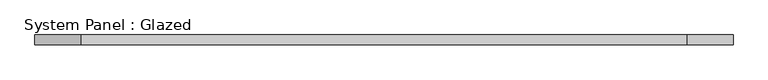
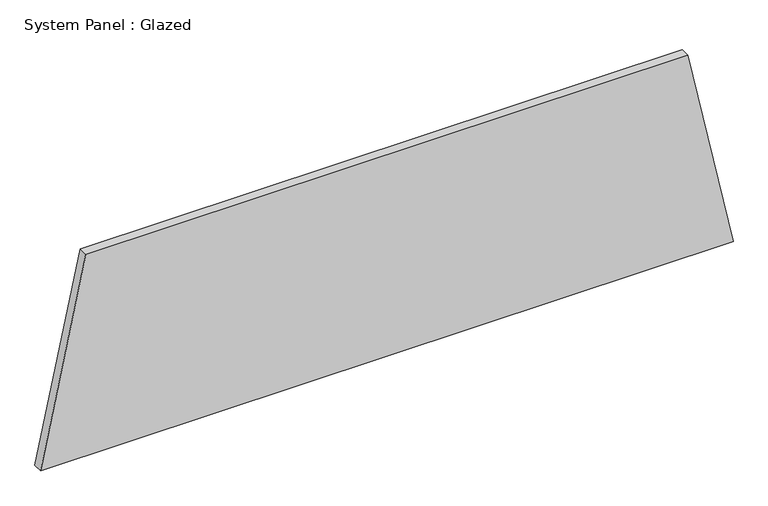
"""IFC4 building model written with IfcOpenShell, lengths in millimetres: plate geometry, System Panel : Glazed."""

from ifc_helpers import new_model, si_unit, frame, origin, place, context, project, spatial, polyline, outline, extrude, source, transform, mapped, element, save


def system_panel_glazed_6854fac0(model_context):
    return source(origin(), model_context, "Body", "SweptSolid", [
        extrude(outline(polyline([(0.0, -908.2247887), (0.0, 908.2247887), (558.1731024, 789.5553138), (558.1731024, -789.5553138), (0.0, -908.2247887)])), frame((0.0, 19.05, 0.0), z_axis=(0.0, 1.0, 0.0), x_axis=(0.0, 0.0, 1.0)), (0.0, 0.0, 1.0), 25.4),
    ])


if __name__ == "__main__":
    model = new_model("IFC4")
    model_context = context("Model", 3, world=origin())
    ifc_project = project(units=[si_unit("LENGTHUNIT", "METRE", prefix="MILLI")], contexts=[model_context])
    site = spatial("IfcSite", under=ifc_project)
    building = spatial("IfcBuilding", under=site)
    placement = place(None, origin())
    system_panel_glazed_shape = system_panel_glazed_6854fac0(model_context)
    element("IfcPlate", 1, ObjectType="System Panel : Glazed", at=placement, inside=building, context=model_context, shape_type="MappedRepresentation", body=[
        mapped(system_panel_glazed_shape, transform((0.0, 0.0, 0.0), x_axis=(1.0, 0.0, 0.0), y_axis=(0.0, 1.0, 0.0), z_axis=(0.0, 0.0, 1.0))),
    ])
    save(model, "model.ifc")
